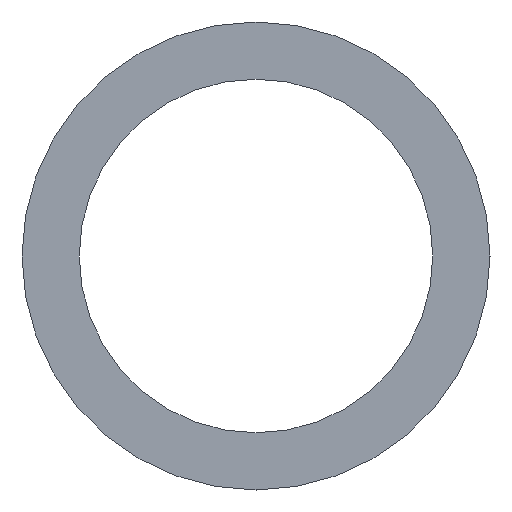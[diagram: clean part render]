
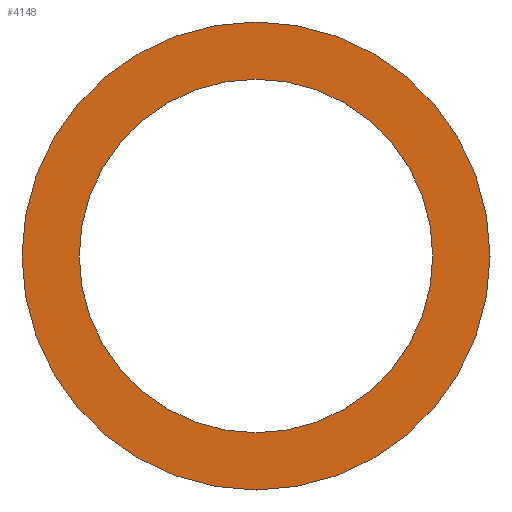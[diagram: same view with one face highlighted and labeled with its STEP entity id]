
A CAD part, front view. The second image highlights one B-rep face of the part: STEP entity #4148.
In plain terms, the highlighted planar face has unit normal (0, -1, 0).
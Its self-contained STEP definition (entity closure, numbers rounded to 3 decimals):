
#87 = AXIS2_PLACEMENT_3D ( 'NONE', #1852, #4523, #1581 ) ;
#316 = DIRECTION ( 'NONE',  ( 0., 0., -1. ) ) ;
#519 = ORIENTED_EDGE ( 'NONE', *, *, #1701, .F. ) ;
#706 = DIRECTION ( 'NONE',  ( 0., -1., 0. ) ) ;
#768 = CARTESIAN_POINT ( 'NONE',  ( 0., -32., 112.5 ) ) ;
#778 = AXIS2_PLACEMENT_3D ( 'NONE', #1711, #2139, #5009 ) ;
#814 = DIRECTION ( 'NONE',  ( 0., 0., -1. ) ) ;
#880 = VERTEX_POINT ( 'NONE', #4193 ) ;
#938 = ORIENTED_EDGE ( 'NONE', *, *, #5350, .T. ) ;
#1033 = CIRCLE ( 'NONE', #4184, 85. ) ;
#1041 = CARTESIAN_POINT ( 'NONE',  ( 0., -32., 0. ) ) ;
#1097 = AXIS2_PLACEMENT_3D ( 'NONE', #1173, #706, #316 ) ;
#1173 = CARTESIAN_POINT ( 'NONE',  ( 0., -32., 0. ) ) ;
#1307 = DIRECTION ( 'NONE',  ( 0., 0., -1. ) ) ;
#1379 = VERTEX_POINT ( 'NONE', #2742 ) ;
#1581 = DIRECTION ( 'NONE',  ( 0., 0., 1. ) ) ;
#1616 = AXIS2_PLACEMENT_3D ( 'NONE', #1041, #2928, #1307 ) ;
#1701 = EDGE_CURVE ( 'NONE', #880, #1379, #1033, .T. ) ;
#1711 = CARTESIAN_POINT ( 'NONE',  ( 0., -32., 0. ) ) ;
#1852 = CARTESIAN_POINT ( 'NONE',  ( 0., -32., 85. ) ) ;
#1878 = CIRCLE ( 'NONE', #1097, 112.5 ) ;
#2139 = DIRECTION ( 'NONE',  ( 0., -1., 0. ) ) ;
#2681 = EDGE_LOOP ( 'NONE', ( #3189, #519 ) ) ;
#2742 = CARTESIAN_POINT ( 'NONE',  ( 0., -32., -85. ) ) ;
#2928 = DIRECTION ( 'NONE',  ( 0., -1., 0. ) ) ;
#2999 = ORIENTED_EDGE ( 'NONE', *, *, #3733, .T. ) ;
#3189 = ORIENTED_EDGE ( 'NONE', *, *, #3696, .F. ) ;
#3445 = VERTEX_POINT ( 'NONE', #768 ) ;
#3465 = CIRCLE ( 'NONE', #778, 85. ) ;
#3575 = VERTEX_POINT ( 'NONE', #4742 ) ;
#3696 = EDGE_CURVE ( 'NONE', #1379, #880, #3465, .T. ) ;
#3733 = EDGE_CURVE ( 'NONE', #3575, #3445, #4262, .T. ) ;
#3983 = FACE_BOUND ( 'NONE', #2681, .T. ) ;
#4131 = DIRECTION ( 'NONE',  ( 0., -1., 0. ) ) ;
#4148 = ADVANCED_FACE ( 'NONE', ( #3983, #4295 ), #5159, .F. ) ;
#4184 = AXIS2_PLACEMENT_3D ( 'NONE', #5329, #4131, #814 ) ;
#4193 = CARTESIAN_POINT ( 'NONE',  ( 0., -32., 85. ) ) ;
#4262 = CIRCLE ( 'NONE', #1616, 112.5 ) ;
#4295 = FACE_OUTER_BOUND ( 'NONE', #4433, .T. ) ;
#4433 = EDGE_LOOP ( 'NONE', ( #2999, #938 ) ) ;
#4523 = DIRECTION ( 'NONE',  ( 0., 1., 0. ) ) ;
#4742 = CARTESIAN_POINT ( 'NONE',  ( 0., -32., -112.5 ) ) ;
#5009 = DIRECTION ( 'NONE',  ( 0., 0., -1. ) ) ;
#5159 = PLANE ( 'NONE',  #87 ) ;
#5329 = CARTESIAN_POINT ( 'NONE',  ( 0., -32., 0. ) ) ;
#5350 = EDGE_CURVE ( 'NONE', #3445, #3575, #1878, .T. ) ;
